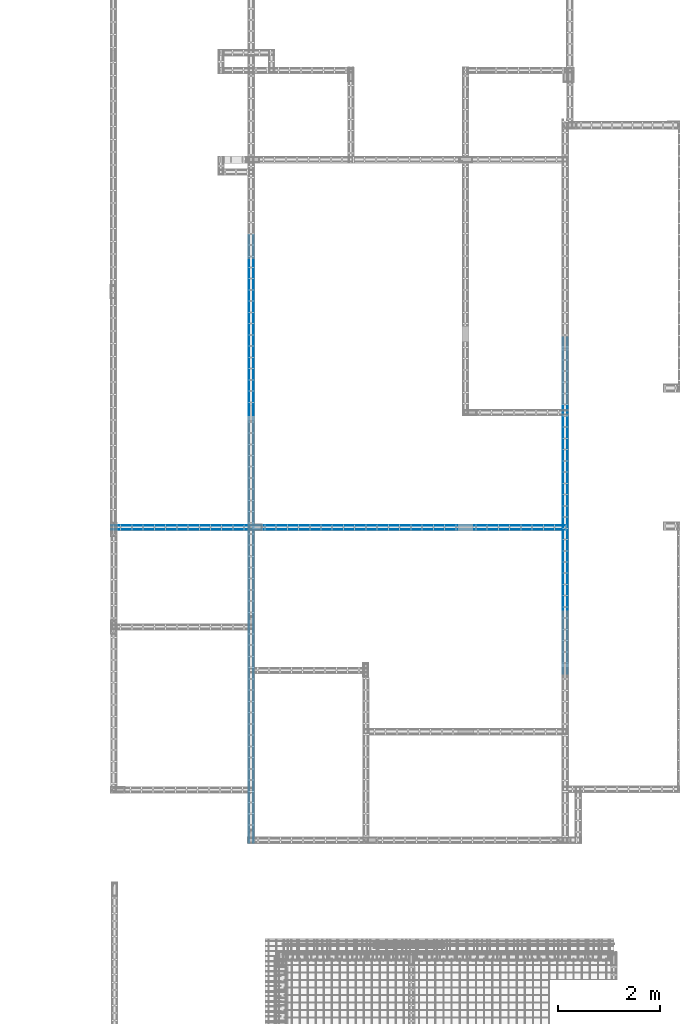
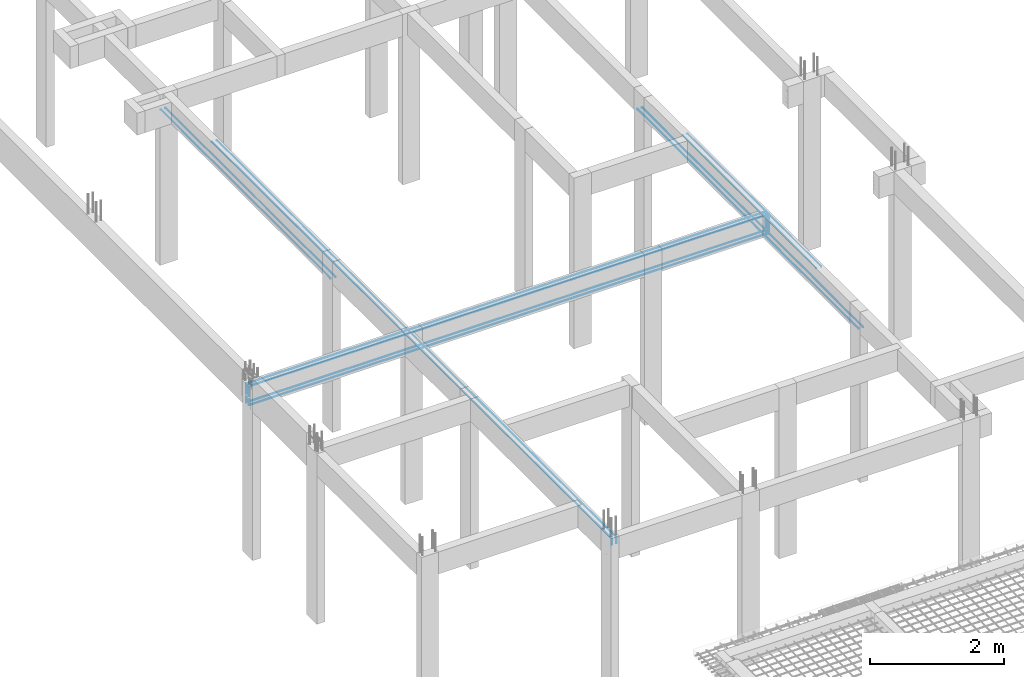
# One storey, part 55 of 236: 12 reinforcing bars.
"""IFC4 building model written with IfcOpenShell, lengths in centimetres."""

import ifcopenshell
import ifcopenshell.guid

model = None  # the IFC model being written
_history = None  # IfcOwnerHistory: only IFC2X3 demands one
_inside = {}  # id of a spatial element -> (the spatial element, [elements in it])
_under = {}  # id of a project, library or spatial element -> (it, [spatial elements below it])
_declared = {}  # id of a project -> (the project, [libraries it declares])
_typed = {}  # id of a type object -> (the type object, [elements of that type])
_made_of = {}  # id of a material, layer set ... -> (it, [elements and type objects made of it])


def new_model(schema):
    """Start an empty IFC model of exactly this schema.

    Asked for "IFC4X3", IfcOpenShell would pick the latest addendum, in which some entities
    have other attributes; the version numbers below select the first issue.
    IFC2X3 requires an IfcOwnerHistory on every rooted entity: one is made here for all.
    """
    global model, _history
    if schema == "IFC4X3":
        model = ifcopenshell.file(schema_version=(4, 3, 0, 0))
    else:
        model = ifcopenshell.file(schema=schema)
    _inside.clear()
    _under.clear()
    _declared.clear()
    _typed.clear()
    _made_of.clear()
    _history = None
    if model.schema == "IFC2X3":
        org = make("IfcOrganization", Name="unknown")
        user = make(
            "IfcPersonAndOrganization",
            ThePerson=make("IfcPerson", FamilyName="unknown"),
            TheOrganization=org,
        )
        app = make(
            "IfcApplication",
            ApplicationDeveloper=org,
            Version="unknown",
            ApplicationFullName="unknown",
            ApplicationIdentifier="unknown",
        )
        _history = make(
            "IfcOwnerHistory",
            OwningUser=user,
            OwningApplication=app,
            ChangeAction="ADDED",
            CreationDate=0,
        )
    return model


def make(cls, **values):
    """One entity of the class cls with the attributes given. An attribute that is None is left unset."""
    return model.create_entity(
        cls, **{name: value for name, value in values.items() if value is not None}
    )


def entity(cls, *values):
    """Any entity or typed value of the class cls, its attributes in the order of the schema. None: left unset."""
    e = model.create_entity(cls)
    for i, value in enumerate(values):
        if value is not None:
            e[i] = value
    return e


def rooted(cls, **values):
    """An entity with a GlobalId (a new one), such as an element, a storey or a relation."""
    return make(cls, GlobalId=ifcopenshell.guid.new(), OwnerHistory=_history, **values)


def si_unit(unit_type, name, prefix=None):
    """IfcSIUnit, for example si_unit("LENGTHUNIT", "METRE", prefix="MILLI")."""
    return make("IfcSIUnit", UnitType=unit_type, Prefix=prefix, Name=name)


def derived_unit(unit_type, elements):
    """IfcDerivedUnit: a product of units, each with its exponent."""
    return make(
        "IfcDerivedUnit",
        Elements=[
            make("IfcDerivedUnitElement", Unit=unit, Exponent=power)
            for unit, power in elements
        ],
        UnitType=unit_type,
    )


def assignment(units):
    """IfcUnitAssignment: the units of a project."""
    return None if units is None else make("IfcUnitAssignment", Units=units)


def point(xyz):
    """IfcCartesianPoint."""
    return None if xyz is None else make("IfcCartesianPoint", Coordinates=xyz)


def direction(xyz):
    """IfcDirection."""
    return None if xyz is None else make("IfcDirection", DirectionRatios=xyz)


def frame(location, z_axis=None, x_axis=None):
    """IfcAxis2Placement3D, a coordinate frame: its origin and axes. An axis left out is left unset."""
    return make(
        "IfcAxis2Placement3D",
        Location=point(location),
        Axis=direction(z_axis),
        RefDirection=direction(x_axis),
    )


def origin_with_axes():
    """The frame at (0, 0, 0) with the z axis (0, 0, 1) and the x axis (1, 0, 0) written out."""
    return frame((0.0, 0.0, 0.0), z_axis=(0.0, 0.0, 1.0), x_axis=(1.0, 0.0, 0.0))


def place(relative_to, where):
    """IfcLocalPlacement: puts the frame where relative to a parent placement (None: the world)."""
    return make(
        "IfcLocalPlacement", PlacementRelTo=relative_to, RelativePlacement=where
    )


def context(
    kind, dimensions, precision=None, world=None, true_north=None, identifier=None
):
    """IfcGeometricRepresentationContext, for example the 3D "Model" context."""
    return make(
        "IfcGeometricRepresentationContext",
        ContextIdentifier=identifier,
        ContextType=kind,
        CoordinateSpaceDimension=dimensions,
        Precision=precision,
        WorldCoordinateSystem=world,
        TrueNorth=true_north,
    )


def project(units=None, contexts=None):
    """IfcProject with its units and contexts."""
    return rooted(
        "IfcProject",
        Name="project",
        RepresentationContexts=contexts,
        UnitsInContext=assignment(units),
    )


def spatial(cls, under=None, at=None, **own):
    """A site, building, storey or space (cls), placed at a placement, below another one or the project."""
    s = rooted(cls, ObjectPlacement=at, **own)
    if under is not None:
        _under.setdefault(under.id(), (under, []))[1].append(s)
    return s


def shape(context_of_items, identifier, shape_type, items):
    """IfcShapeRepresentation: the items that make up one representation, for example the "Body"."""
    return make(
        "IfcShapeRepresentation",
        ContextOfItems=context_of_items,
        RepresentationIdentifier=identifier,
        RepresentationType=shape_type,
        Items=items,
    )


def made_of(thing, what):
    """Note that an element or type object is made of a material, layer set ...; save() writes the relation."""
    if what is not None:
        _made_of.setdefault(what.id(), (what, []))[1].append(thing)
    return thing


def element(
    cls,
    number,
    at=None,
    inside=None,
    cuts=None,
    type_object=None,
    material=None,
    context=None,
    identifier="Body",
    shape_type=None,
    held_by="IfcProductDefinitionShape",
    body=None,
    shapes=None,
    **own,
):
    """One element of the class cls, such as IfcWall. Its Tag is "e" and its number.

    at: its placement. inside: the storey or other place that contains it. cuts: it is an
    opening in that element (IfcRelVoidsElement). A single representation is given by context,
    identifier, shape_type and body (its items); several are given by shapes. held_by: the class
    of the entity that holds the representations. save() writes the other relations.
    """
    e = rooted(cls, Tag="e%d" % number, ObjectPlacement=at, **own)
    if body is not None:
        shapes = [shape(context, identifier, shape_type, body)]
    if shapes is not None:
        e.Representation = make(held_by, Representations=shapes)
    if inside is not None:
        _inside.setdefault(inside.id(), (inside, []))[1].append(e)
    if cuts is not None:
        rooted(
            "IfcRelVoidsElement", RelatingBuildingElement=cuts, RelatedOpeningElement=e
        )
    if type_object is not None:
        _typed.setdefault(type_object.id(), (type_object, []))[1].append(e)
    return made_of(e, material)


def aggregate(whole, parts):
    """IfcRelAggregates: a whole, such as a stair, and the parts it consists of."""
    return rooted("IfcRelAggregates", RelatingObject=whole, RelatedObjects=parts)


def save(model, path):
    """Write the relations noted so far, then the file.

    IfcRelAggregates (storeys below a building ...), IfcRelContainedInSpatialStructure (elements
    in a storey), IfcRelDefinesByType, IfcRelAssociatesMaterial and IfcRelDeclares: one each for
    every whole, place, type object, material and project.
    """
    for whole, parts in _under.values():
        aggregate(whole, parts)
    for where, things in _inside.values():
        rooted(
            "IfcRelContainedInSpatialStructure",
            RelatedElements=things,
            RelatingStructure=where,
        )
    for kind, things in _typed.values():
        rooted("IfcRelDefinesByType", RelatedObjects=things, RelatingType=kind)
    for what, things in _made_of.values():
        rooted("IfcRelAssociatesMaterial", RelatedObjects=things, RelatingMaterial=what)
    for by, libraries in _declared.values():
        rooted("IfcRelDeclares", RelatingContext=by, RelatedDefinitions=libraries)
    model.write(path)


model = new_model("IFC4")

# Units and contexts
model_context = context("Model", 3, precision=1e-05, world=origin_with_axes(), identifier="Body")
ifc_project = project(units=[si_unit("LENGTHUNIT", "METRE", prefix="CENTI"), si_unit("VOLUMEUNIT", "CUBIC_METRE"), si_unit("AREAUNIT", "SQUARE_METRE"), si_unit("POWERUNIT", "WATT"), si_unit("LUMINOUSFLUXUNIT", "LUMEN"), si_unit("ELECTRICCURRENTUNIT", "AMPERE"), si_unit("PRESSUREUNIT", "PASCAL", prefix="KILO"), si_unit("MASSUNIT", "GRAM", prefix="KILO"), si_unit("PLANEANGLEUNIT", "RADIAN"), derived_unit("VOLUMETRICFLOWRATEUNIT", [(si_unit("LENGTHUNIT", "METRE"), 3), (si_unit("TIMEUNIT", "SECOND"), -1)])], contexts=[model_context])

# Site, building, storey
site_placement = place(None, frame((-4000.0, 0.0, 0.0), z_axis=(0.0, 0.0, 1.0), x_axis=(1.0, 0.0, 0.0)))
site = spatial("IfcSite", under=ifc_project, at=site_placement, Name="PADRÃO")
building_placement = place(site_placement, frame((0.0, 0.0, -14.0)))
building = spatial("IfcBuilding", under=site, at=building_placement, Name="CRECHE PRÉ-ESCOLA TIPO 2")
placement_1 = place(building_placement, origin_with_axes())
placement_2 = place(placement_1, frame((0.0, 0.0, 30.0), z_axis=(0.0, 0.0, 1.0), x_axis=(1.0, 0.0, 0.0)))
storey_placement = place(placement_2, frame((0.0, 0.0, 310.0), z_axis=(0.0, 0.0, 1.0), x_axis=(1.0, 0.0, 0.0)))
storey = spatial("IfcBuildingStorey", under=building, at=storey_placement, Name="TERREO", CompositionType="ELEMENT", Elevation=326.0)

# Reinforcing bars
for number, where, z_axis, x_axis, name in (
    (1, (2696.495, 1023.42, -14.8022873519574), (0.0, 0.0, 1.0), (1.0, 0.0, 0.0), "V248 - Longitudinal inferior"),
    (2, (2696.495, 1031.62, -14.8022873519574), (0.0, 0.0, 1.0), (1.0, 0.0, 0.0), "V248 - Longitudinal inferior"),
):
    element("IfcReinforcingBar", number, at=place(storey_placement, frame(where, z_axis=z_axis, x_axis=x_axis)), inside=storey, Name=name, BarLength=0.0, CrossSectionArea=5.0265482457e-05, NominalDiameter=0.8, PredefinedType="MAIN", context=model_context, shape_type="AdvancedSweptSolid", body=[
        entity("IfcSweptDiskSolid", entity("IfcCompositeCurve", [entity("IfcCompositeCurveSegment", "CONTINUOUS", True, entity("IfcPolyline", [entity("IfcCartesianPoint", [-446.605, 0.0, -12.2977126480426]), entity("IfcCartesianPoint", [-446.605, 0.0, -22.2977126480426])])), entity("IfcCompositeCurveSegment", "CONTINUOUS", True, entity("IfcPolyline", [entity("IfcCartesianPoint", [-446.605, 0.0, -22.2977126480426]), entity("IfcCartesianPoint", [446.605, 0.0, -22.2977126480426])])), entity("IfcCompositeCurveSegment", "CONTINUOUS", True, entity("IfcPolyline", [entity("IfcCartesianPoint", [446.605, 0.0, -22.2977126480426]), entity("IfcCartesianPoint", [446.605, 0.0, 0.0])]))], False), 0.4),
    ])
for number, where, z_axis, x_axis, name in (
    (3, (2696.495, 1023.52, -2.49531217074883), (0.0, 0.0, 1.0), (1.0, 0.0, 0.0), "V248 - Longitudinal superior"),
    (4, (2696.495, 1031.52, -2.49531217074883), (0.0, 0.0, 1.0), (1.0, 0.0, 0.0), "V248 - Longitudinal superior"),
):
    element("IfcReinforcingBar", number, at=place(storey_placement, frame(where, z_axis=z_axis, x_axis=x_axis)), inside=storey, Name=name, BarLength=0.0, CrossSectionArea=7.853981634e-05, NominalDiameter=1.0, PredefinedType="MAIN", context=model_context, shape_type="AdvancedSweptSolid", body=[
        entity("IfcSweptDiskSolid", entity("IfcCompositeCurve", [entity("IfcCompositeCurveSegment", "CONTINUOUS", True, entity("IfcPolyline", [entity("IfcCartesianPoint", [-446.505, 0.0, -18.3428579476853]), entity("IfcCartesianPoint", [-446.505, 0.0, -0.504687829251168])])), entity("IfcCompositeCurveSegment", "CONTINUOUS", True, entity("IfcPolyline", [entity("IfcCartesianPoint", [-446.505, 0.0, -0.504687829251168]), entity("IfcCartesianPoint", [446.505, 0.0, -0.504687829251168])])), entity("IfcCompositeCurveSegment", "CONTINUOUS", True, entity("IfcPolyline", [entity("IfcCartesianPoint", [446.505, 0.0, -0.504687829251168]), entity("IfcCartesianPoint", [446.505, 0.0, -36.5046878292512])]))], False), 0.5),
    ])
for number, where, z_axis, x_axis, name in (
    (5, (2519.4, 1499.96, -36.7), (0.0, 0.0, 1.0), (1.0, 0.0, 0.0), "V296 - Longitudinal inferior"),
    (6, (2527.6, 1499.96, -36.7), (0.0, 0.0, 1.0), (1.0, 0.0, 0.0), "V296 - Longitudinal inferior"),
):
    element("IfcReinforcingBar", number, at=place(storey_placement, frame(where, z_axis=z_axis, x_axis=x_axis)), inside=storey, Name=name, BarLength=0.0, CrossSectionArea=5.0265482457e-05, NominalDiameter=0.8, PredefinedType="MAIN", context=model_context, shape_type="AdvancedSweptSolid", body=[
        entity("IfcSweptDiskSolid", entity("IfcCompositeCurve", [entity("IfcCompositeCurveSegment", "CONTINUOUS", True, entity("IfcPolyline", [entity("IfcCartesianPoint", [0.0, -252.88, -0.4]), entity("IfcCartesianPoint", [0.0, 252.88, -0.4])]))], False), 0.4),
    ])
for number, where, z_axis, x_axis, name in (
    (7, (2527.6, 1005.0181248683, -2.49624973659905), (0.0, 0.0, 1.0), (1.0, 0.0, 0.0), "V296 - Longitudinal superior"),
    (8, (2519.4, 1005.0181248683, -2.49624973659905), (0.0, 0.0, 1.0), (1.0, 0.0, 0.0), "V296 - Longitudinal superior"),
):
    element("IfcReinforcingBar", number, at=place(storey_placement, frame(where, z_axis=z_axis, x_axis=x_axis)), inside=storey, Name=name, BarLength=0.0, CrossSectionArea=5.0265482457e-05, NominalDiameter=0.8, PredefinedType="MAIN", context=model_context, shape_type="AdvancedSweptSolid", body=[
        entity("IfcSweptDiskSolid", entity("IfcCompositeCurve", [entity("IfcCompositeCurveSegment", "CONTINUOUS", True, entity("IfcPolyline", [entity("IfcCartesianPoint", [0.0, -594.5981248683, -10.4037502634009]), entity("IfcCartesianPoint", [0.0, -594.5981248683, -0.403750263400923])])), entity("IfcCompositeCurveSegment", "CONTINUOUS", True, entity("IfcPolyline", [entity("IfcCartesianPoint", [0.0, -594.5981248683, -0.403750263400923]), entity("IfcCartesianPoint", [0.0, 595.0018751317, -0.403750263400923])]))], False), 0.4),
    ])
for number, where, z_axis, x_axis, name in (
    (9, (3142.75, 1065.555, -2.5), (0.0, 0.0, 1.0), (1.0, 0.0, 0.0), "V305 - Longitudinal construtiva"),
    (10, (3134.25, 1065.555, -2.5), (0.0, 0.0, 1.0), (1.0, 0.0, 0.0), "V305 - Longitudinal construtiva"),
):
    element("IfcReinforcingBar", number, at=place(storey_placement, frame(where, z_axis=z_axis, x_axis=x_axis)), inside=storey, Name=name, BarLength=0.0, CrossSectionArea=1.9634954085e-05, NominalDiameter=0.5, PredefinedType="MAIN", context=model_context, shape_type="AdvancedSweptSolid", body=[
        entity("IfcSweptDiskSolid", entity("IfcCompositeCurve", [entity("IfcCompositeCurveSegment", "CONTINUOUS", True, entity("IfcPolyline", [entity("IfcCartesianPoint", [0.0, -198.975, -0.25]), entity("IfcCartesianPoint", [0.0, 198.975, -0.25])]))], False), 0.25),
    ])
for number, where, z_axis, x_axis, name in (
    (11, (3142.5, 1070.27, -36.5), (0.0, 0.0, 1.0), (1.0, 0.0, 0.0), "V305 - Longitudinal inferior"),
    (12, (3134.5, 1070.27, -36.5), (0.0, 0.0, 1.0), (1.0, 0.0, 0.0), "V305 - Longitudinal inferior"),
):
    element("IfcReinforcingBar", number, at=place(storey_placement, frame(where, z_axis=z_axis, x_axis=x_axis)), inside=storey, Name=name, BarLength=0.0, CrossSectionArea=7.853981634e-05, NominalDiameter=1.0, PredefinedType="MAIN", context=model_context, shape_type="AdvancedSweptSolid", body=[
        entity("IfcSweptDiskSolid", entity("IfcCompositeCurve", [entity("IfcCompositeCurveSegment", "CONTINUOUS", True, entity("IfcPolyline", [entity("IfcCartesianPoint", [0.0, -328.69, -0.5]), entity("IfcCartesianPoint", [0.0, 328.69, -0.5])]))], False), 0.5),
    ])

save(model, "model.ifc")
